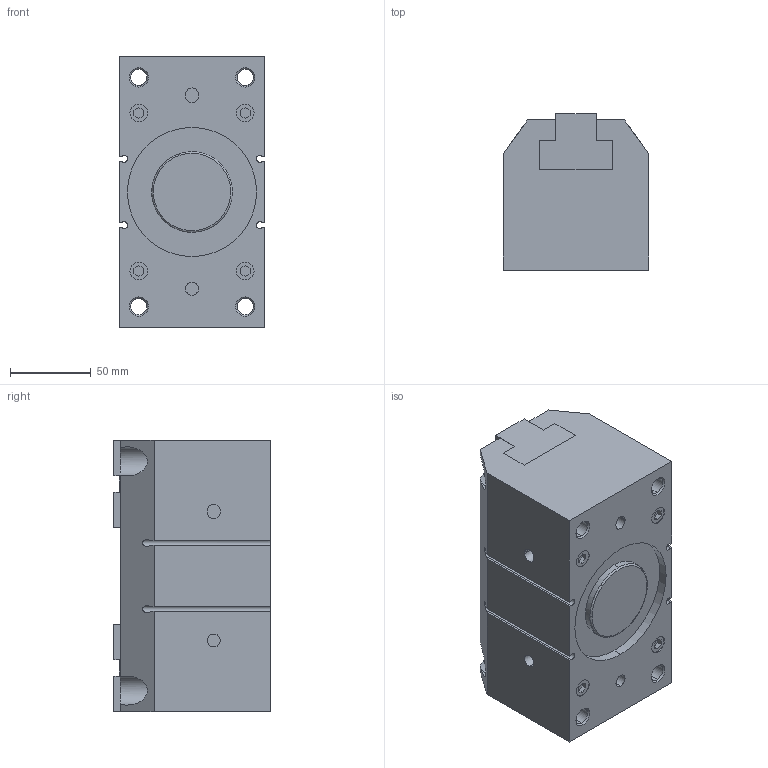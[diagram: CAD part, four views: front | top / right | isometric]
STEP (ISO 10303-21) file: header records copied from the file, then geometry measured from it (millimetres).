
FILE_DESCRIPTION (( 'STEP AP203' ), '1' );
FILE_NAME ('SDW80_0_.STEP', '2022-10-17T02:06:54', ( '' ), ( '' ), 'SwSTEP 2.0', 'SolidWorks 2018', '' );
FILE_SCHEMA (( 'CONFIG_CONTROL_DESIGN' ));
Length unit declared in the file: millimetre
Products named in the file (3): SDW80_0_; SDW80-03; SDW80-06
Assembly tree (3 placements, depth 2):
  SDW80_0_
    SDW80-03  x2
    SDW80-06
Bounding box: 90 x 97 x 168 mm (x, y, z)
Volume: 1268734.4 mm3; surface area: 132274.4 mm2
Topology: 3 solids, 3 shells, 250 faces, 634 edges, 416 vertices
Faces by surface type: plane 154, cylinder 72, cone 22, torus 2
Entity records: 7525 total; most frequent: CARTESIAN_POINT 1674, ORIENTED_EDGE 1144, DIRECTION 1140, EDGE_CURVE 572, LINE 388, VECTOR 388, AXIS2_PLACEMENT_3D 376, VERTEX_POINT 376
